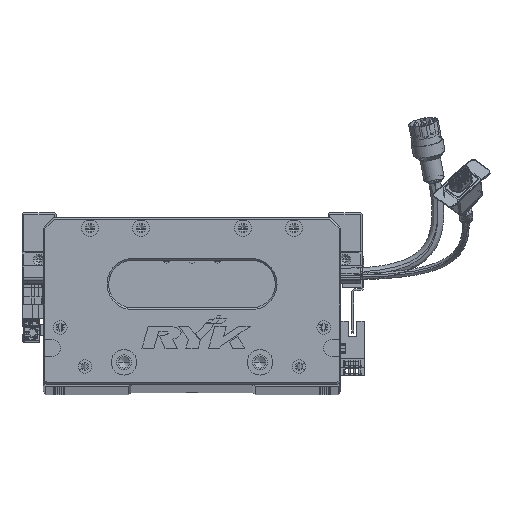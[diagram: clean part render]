
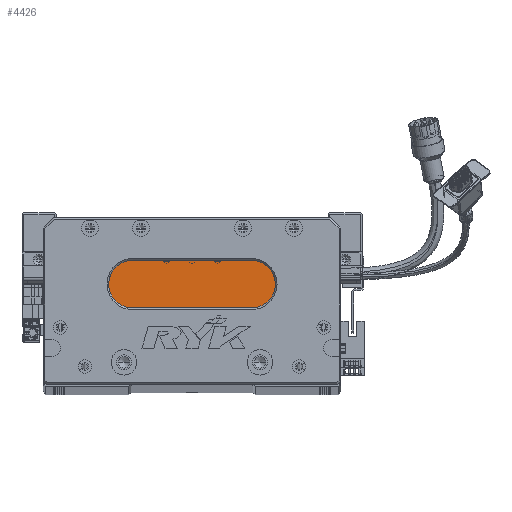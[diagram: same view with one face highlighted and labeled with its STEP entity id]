
A CAD part, top view. The second image highlights one B-rep face of the part: STEP entity #4426.
In plain terms, the highlighted planar face has unit normal (0, 0, 1) as drawn and (0, 0, -1) by its records, which use the part's own axes.
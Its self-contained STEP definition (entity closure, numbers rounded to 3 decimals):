
#3917 = CARTESIAN_POINT ( 'NONE',  ( 122.5, 45., 18. ) ) ;
#4426 = ADVANCED_FACE ( 'NONE', ( #116209 ), #77254, .T. ) ;
#5344 = CIRCLE ( 'NONE', #9801, 14. ) ;
#9801 = AXIS2_PLACEMENT_3D ( 'NONE', #95726, #24242, #96601 ) ;
#9983 = CARTESIAN_POINT ( 'NONE',  ( 52.5, 45., 18. ) ) ;
#10069 = DIRECTION ( 'NONE',  ( -1., 0., 0. ) ) ;
#17645 = CARTESIAN_POINT ( 'NONE',  ( 38.5, 59., 18. ) ) ;
#20650 = VECTOR ( 'NONE', #53530, 1000. ) ;
#21880 = CARTESIAN_POINT ( 'NONE',  ( 52.5, 59., 18. ) ) ;
#22865 = ORIENTED_EDGE ( 'NONE', *, *, #67465, .T. ) ;
#22915 = VERTEX_POINT ( 'NONE', #9983 ) ;
#24242 = DIRECTION ( 'NONE',  ( 0., 0., -1. ) ) ;
#24359 = CARTESIAN_POINT ( 'NONE',  ( 52.5, 73., 18. ) ) ;
#24469 = CARTESIAN_POINT ( 'NONE',  ( 122.5, 45., 18. ) ) ;
#25141 = DIRECTION ( 'NONE',  ( 1., 0., 0. ) ) ;
#32484 = VERTEX_POINT ( 'NONE', #24359 ) ;
#33541 = LINE ( 'NONE', #3917, #20650 ) ;
#37861 = LINE ( 'NONE', #45434, #45993 ) ;
#44824 = EDGE_CURVE ( 'NONE', #32484, #132296, #37861, .T. ) ;
#45434 = CARTESIAN_POINT ( 'NONE',  ( 122.5, 73., 18. ) ) ;
#45724 = EDGE_CURVE ( 'NONE', #92470, #32484, #5344, .T. ) ;
#45993 = VECTOR ( 'NONE', #25141, 1000. ) ;
#49247 = AXIS2_PLACEMENT_3D ( 'NONE', #66906, #97416, #117710 ) ;
#51178 = VERTEX_POINT ( 'NONE', #24469 ) ;
#53530 = DIRECTION ( 'NONE',  ( -1., 0., 0. ) ) ;
#55634 = ORIENTED_EDGE ( 'NONE', *, *, #44824, .T. ) ;
#61931 = AXIS2_PLACEMENT_3D ( 'NONE', #113113, #82919, #10069 ) ;
#61945 = AXIS2_PLACEMENT_3D ( 'NONE', #21880, #104184, #114537 ) ;
#66906 = CARTESIAN_POINT ( 'NONE',  ( 122.5, 59., 18. ) ) ;
#66909 = EDGE_LOOP ( 'NONE', ( #96257, #95570, #22865, #96260, #55634 ) ) ;
#67465 = EDGE_CURVE ( 'NONE', #22915, #92470, #108079, .T. ) ;
#77254 = PLANE ( 'NONE',  #49247 ) ;
#82919 = DIRECTION ( 'NONE',  ( 0., 0., -1. ) ) ;
#92470 = VERTEX_POINT ( 'NONE', #17645 ) ;
#95570 = ORIENTED_EDGE ( 'NONE', *, *, #116065, .T. ) ;
#95726 = CARTESIAN_POINT ( 'NONE',  ( 52.5, 59., 18. ) ) ;
#96257 = ORIENTED_EDGE ( 'NONE', *, *, #124592, .T. ) ;
#96260 = ORIENTED_EDGE ( 'NONE', *, *, #45724, .T. ) ;
#96601 = DIRECTION ( 'NONE',  ( -1., 0., 0. ) ) ;
#97416 = DIRECTION ( 'NONE',  ( 0., 0., -1. ) ) ;
#104184 = DIRECTION ( 'NONE',  ( 0., 0., -1. ) ) ;
#108079 = CIRCLE ( 'NONE', #61945, 14. ) ;
#113113 = CARTESIAN_POINT ( 'NONE',  ( 122.5, 59., 18. ) ) ;
#114537 = DIRECTION ( 'NONE',  ( -1., 0., 0. ) ) ;
#116065 = EDGE_CURVE ( 'NONE', #51178, #22915, #33541, .T. ) ;
#116209 = FACE_OUTER_BOUND ( 'NONE', #66909, .T. ) ;
#117710 = DIRECTION ( 'NONE',  ( -1., 0., 0. ) ) ;
#119354 = CIRCLE ( 'NONE', #61931, 14. ) ;
#124592 = EDGE_CURVE ( 'NONE', #132296, #51178, #119354, .T. ) ;
#131710 = CARTESIAN_POINT ( 'NONE',  ( 122.5, 73., 18. ) ) ;
#132296 = VERTEX_POINT ( 'NONE', #131710 ) ;
